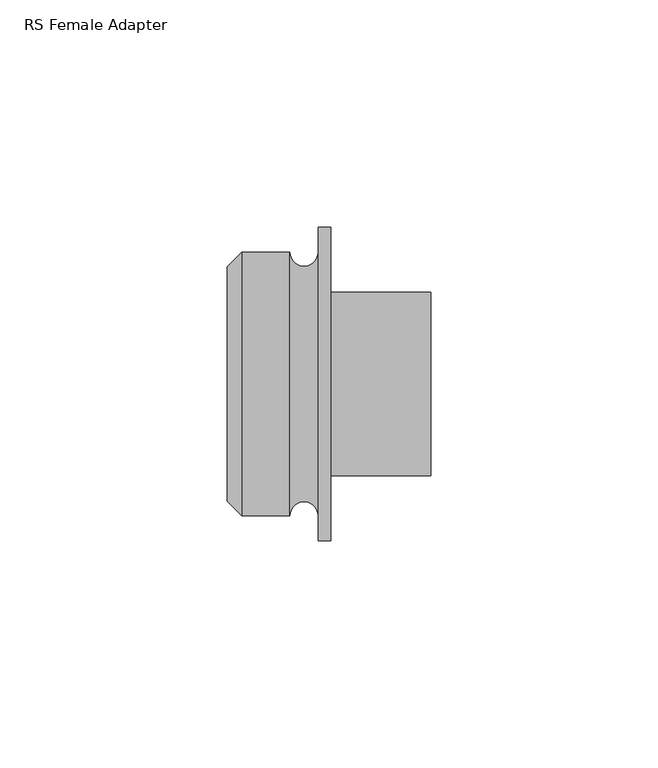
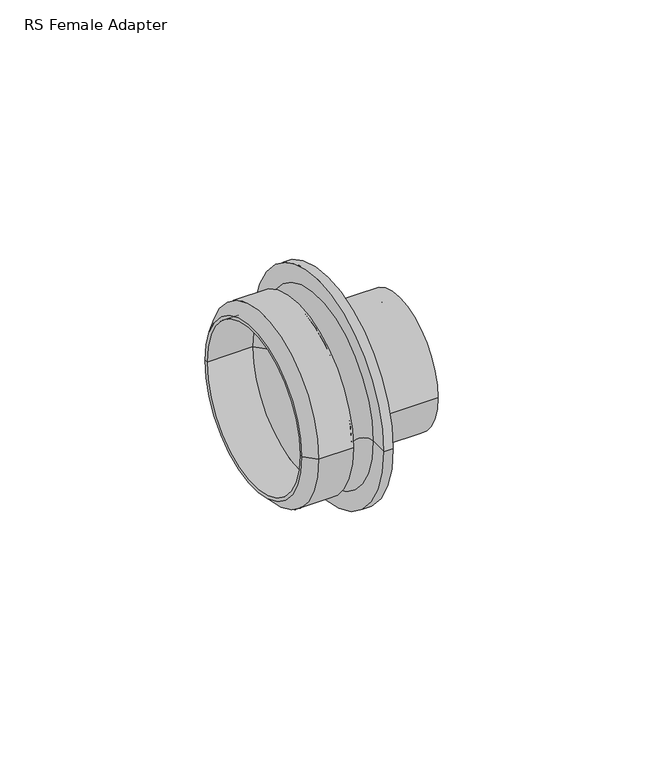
"""IFC4 building model written with IfcOpenShell, lengths in millimetres: pipe fitting geometry, RS Female Adapter : Superpipe RS2 FT Adapter 1”."""

from ifc_helpers import new_model, si_unit, point, frame, origin, place, context, project, spatial, polyline, circle_curve, ellipse_curve, trimmed, source, transform, mapped, element, save
from ifc_brep_helpers import plane_surface, cylinder_surface, revolved_surface, advanced_brep


def rs_female_adapter_be3e60a6(model_context):
    return source(origin(), model_context, "Body", "AdvancedBrep", [
        advanced_brep(
        [(20.0, -34.5, 0.0), (20.0, 34.5, 0.0), (22.8, 34.5, 0.0), (22.8, -34.5, 0.0), (20.0, -29.0, 0.0), (20.0, 29.0, 0.0), (22.8, 16.0, 0.0), (22.8, -16.0, 0.0), (0.0, -25.8, 0.0), (0.0, 25.8, 0.0), (3.2, 29.0, 0.0), (3.2, -29.0, 0.0), (0.0, -24.8, 0.0), (0.0, 24.8, 0.0), (13.8, -29.0, 0.0), (13.8, 29.0, 0.0), (14.0, -24.8, 0.0), (14.0, 24.8, 0.0)],
        [
            (0, 1, circle_curve(frame((20.0, 0.0, 0.0), z_axis=(1.0, 0.0, 0.0), x_axis=(0.0, 1.0, 0.0)), 34.5)),
            (1, 2),
            (2, 3, circle_curve(frame((22.8, 0.0, 0.0), z_axis=(-1.0, 0.0, 0.0), x_axis=(0.0, 1.0, 0.0)), 34.5)),
            (3, 0),
            (1, 0, circle_curve(frame((20.0, 0.0, 0.0), z_axis=(1.0, 0.0, 0.0), x_axis=(0.0, 1.0, 0.0)), 34.5)),
            (3, 2, circle_curve(frame((22.8, 0.0, 0.0), z_axis=(-1.0, 0.0, 0.0), x_axis=(0.0, 1.0, 0.0)), 34.5)),
            (0, 4),
            (4, 5, circle_curve(frame((20.0, 0.0, 0.0), z_axis=(1.0, 0.0, 0.0), x_axis=(0.0, 1.0, 0.0)), 29.0)),
            (5, 1),
            (5, 4, circle_curve(frame((20.0, 0.0, 0.0), z_axis=(1.0, 0.0, 0.0), x_axis=(0.0, 1.0, 0.0)), 29.0)),
            (2, 6),
            (6, 7, circle_curve(frame((22.8, 0.0, 0.0), z_axis=(-1.0, 0.0, 0.0), x_axis=(0.0, 1.0, 0.0)), 16.0)),
            (7, 3),
            (7, 6, circle_curve(frame((22.8, 0.0, 0.0), z_axis=(-1.0, 0.0, 0.0), x_axis=(0.0, 1.0, 0.0)), 16.0)),
            (8, 9, circle_curve(frame((0.0, 0.0, 0.0), z_axis=(1.0, 0.0, 0.0), x_axis=(0.0, 1.0, 0.0)), 25.8)),
            (9, 10),
            (10, 11, circle_curve(frame((3.2, 0.0, 0.0), z_axis=(-1.0, 0.0, 0.0), x_axis=(0.0, 1.0, 0.0)), 29.0)),
            (11, 8),
            (9, 8, circle_curve(frame((0.0, 0.0, 0.0), z_axis=(1.0, 0.0, 0.0), x_axis=(0.0, 1.0, 0.0)), 25.8)),
            (11, 10, circle_curve(frame((3.2, 0.0, 0.0), z_axis=(-1.0, 0.0, 0.0), x_axis=(0.0, 1.0, 0.0)), 29.0)),
            (8, 12),
            (12, 13, circle_curve(frame((0.0, 0.0, 0.0), z_axis=(1.0, 0.0, 0.0), x_axis=(0.0, 1.0, 0.0)), 24.8)),
            (13, 9),
            (13, 12, circle_curve(frame((0.0, 0.0, 0.0), z_axis=(1.0, 0.0, 0.0), x_axis=(0.0, 1.0, 0.0)), 24.8)),
            (4, 14, circle_curve(frame((16.9, -29.0, 0.0), z_axis=(0.0, 0.0, 1.0), x_axis=(1.0, 0.0, 0.0)), 3.1)),
            (14, 15, circle_curve(frame((13.8, 0.0, 0.0), z_axis=(1.0, 0.0, 0.0), x_axis=(0.0, 1.0, 0.0)), 29.0)),
            (15, 5, circle_curve(frame((16.9, 29.0, 0.0), z_axis=(0.0, 0.0, 1.0), x_axis=(1.0, 0.0, 0.0)), 3.1)),
            (15, 14, circle_curve(frame((13.8, 0.0, 0.0), z_axis=(1.0, 0.0, 0.0), x_axis=(0.0, 1.0, 0.0)), 29.0)),
            (10, 15),
            (14, 11),
            (12, 16),
            (16, 17, circle_curve(frame((14.0, 0.0, 0.0), z_axis=(1.0, 0.0, 0.0), x_axis=(0.0, 1.0, 0.0)), 24.8)),
            (17, 13),
            (17, 16, circle_curve(frame((14.0, 0.0, 0.0), z_axis=(1.0, 0.0, 0.0), x_axis=(0.0, 1.0, 0.0)), 24.8)),
            (16, 7),
            (6, 17),
        ],
        [
            cylinder_surface(frame((1964.8, 0.0, 0.0), z_axis=(-1.0, 0.0, 0.0), x_axis=(0.0, 1.0, 0.0)), 34.5),
            plane_surface(frame((20.0, 0.0, 0.0), z_axis=(-1.0, 0.0, 0.0), x_axis=(0.0, 1.0, 0.0))),
            plane_surface(frame((22.8, 0.0, 0.0), z_axis=(1.0, 0.0, 0.0), x_axis=(0.0, 1.0, 0.0))),
            revolved_surface(polyline([(3.2, 29.0, 0.0), (0.0, 25.8, 0.0)]), (1964.8, 0.0, 0.0), (-1.0, 0.0, 0.0)),
            plane_surface(frame((0.0, 0.0, 0.0), z_axis=(-1.0, 0.0, 0.0), x_axis=(0.0, 1.0, 0.0))),
            revolved_surface(trimmed(ellipse_curve(frame((16.9, 29.0, 0.0), z_axis=(0.0, 0.0, -1.0), x_axis=(1.0, 0.0, 0.0)), 3.1, 3.1), [point((20.0, 29.0, 0.0))], [point((13.8, 29.0, 0.0))], True, "CARTESIAN"), (1964.8, 0.0, 0.0), (-1.0, 0.0, 0.0)),
            cylinder_surface(frame((1964.8, 0.0, 0.0), z_axis=(-1.0, 0.0, 0.0), x_axis=(0.0, 1.0, 0.0)), 29.0),
            revolved_surface(polyline([(0.0, 24.8, 0.0), (14.0, 24.8, 0.0)]), (1991.0, 0.0, 0.0), (-1.0, 0.0, 0.0)),
            revolved_surface(polyline([(14.0, 24.8, 0.0), (22.8, 16.0, 0.0)]), (1991.0, 0.0, 0.0), (-1.0, 0.0, 0.0)),
        ],
        [
            (0, [[1, 2, 3, 4]]),
            (0, [[-2, 5, -4, 6]]),
            (1, [[-1, 7, 8, 9]]),
            (1, [[-5, -9, 10, -7]]),
            (2, [[-3, 11, 12, 13]]),
            (2, [[-6, -13, 14, -11]]),
            (3, [[15, 16, 17, 18]]),
            (3, [[-16, 19, -18, 20]]),
            (4, [[-15, 21, 22, 23]]),
            (4, [[-19, -23, 24, -21]]),
            (5, [[-8, 25, 26, 27]]),
            (5, [[-10, -27, 28, -25]]),
            (6, [[-17, 29, -26, 30]]),
            (6, [[-20, -30, -28, -29]]),
            (7, [[31, 32, 33, -22]]),
            (7, [[-31, -24, -33, 34]]),
            (8, [[-32, 35, -12, 36]]),
            (8, [[-34, -36, -14, -35]]),
        ],
    ),
        advanced_brep(
        [(44.8, -20.2, 0.0), (44.8, 20.2, 0.0), (44.8, 16.0, 0.0), (44.8, -16.0, 0.0), (22.8, 16.0, 0.0), (22.8, -16.0, 0.0), (22.8, 20.2, 0.0), (22.8, -20.2, 0.0)],
        [
            (0, 1, circle_curve(frame((44.8, 0.0, 0.0), z_axis=(1.0, 0.0, 0.0), x_axis=(0.0, 1.0, 0.0)), 20.2)),
            (1, 2),
            (2, 3, circle_curve(frame((44.8, 0.0, 0.0), z_axis=(-1.0, 0.0, 0.0), x_axis=(0.0, 1.0, 0.0)), 16.0)),
            (3, 0),
            (2, 4),
            (4, 5, circle_curve(frame((22.8, 0.0, 0.0), z_axis=(-1.0, 0.0, 0.0), x_axis=(0.0, 1.0, 0.0)), 16.0)),
            (5, 3),
            (4, 6),
            (6, 7, circle_curve(frame((22.8, 0.0, 0.0), z_axis=(-1.0, 0.0, 0.0), x_axis=(0.0, 1.0, 0.0)), 20.2)),
            (7, 5),
            (6, 1),
            (0, 7),
            (6, 7, circle_curve(frame((22.8, 0.0, 0.0), z_axis=(1.0, 0.0, 0.0), x_axis=(0.0, 1.0, 0.0)), 20.2)),
            (0, 1, circle_curve(frame((44.8, 0.0, 0.0), z_axis=(-1.0, 0.0, 0.0), x_axis=(0.0, 1.0, 0.0)), 20.2)),
            (4, 5, circle_curve(frame((22.8, 0.0, 0.0), z_axis=(1.0, 0.0, 0.0), x_axis=(0.0, 1.0, 0.0)), 16.0)),
            (2, 3, circle_curve(frame((44.8, 0.0, 0.0), z_axis=(1.0, 0.0, 0.0), x_axis=(0.0, 1.0, 0.0)), 16.0)),
        ],
        [
            plane_surface(frame((44.8, 0.0, 0.0), z_axis=(1.0, 0.0, 0.0), x_axis=(0.0, 1.0, 0.0))),
            revolved_surface(polyline([(22.799999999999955, 16.0, 0.0), (44.799999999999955, 16.0, 0.0)]), (2000.0, 0.0, 0.0), (-1.0, 0.0, 0.0)),
            plane_surface(frame((22.8, 0.0, 0.0), z_axis=(-1.0, 0.0, 0.0), x_axis=(0.0, 1.0, 0.0))),
            cylinder_surface(frame((2000.0, 0.0, 0.0), z_axis=(-1.0, 0.0, 0.0), x_axis=(0.0, 1.0, 0.0)), 20.2),
        ],
        [
            (0, [[1, 2, 3, 4]]),
            (1, [[-3, 5, 6, 7]]),
            (2, [[-6, 8, 9, 10]]),
            (3, [[-9, 11, -1, 12]]),
            (3, [[13, -12, 14, -11]]),
            (2, [[15, -10, -13, -8]]),
            (1, [[16, -7, -15, -5]]),
            (0, [[-14, -4, -16, -2]]),
        ],
    ),
    ])


if __name__ == "__main__":
    model = new_model("IFC4")
    model_context = context("Model", 3, world=origin())
    ifc_project = project(units=[si_unit("LENGTHUNIT", "METRE", prefix="MILLI")], contexts=[model_context])
    site = spatial("IfcSite", under=ifc_project)
    building = spatial("IfcBuilding", under=site)
    placement = place(None, origin())
    rs_female_adapter_shape = rs_female_adapter_be3e60a6(model_context)
    element("IfcPipeFitting", 1, ObjectType="RS Female Adapter : Superpipe RS2 FT Adapter 1”", at=placement, inside=building, context=model_context, shape_type="MappedRepresentation", body=[
        mapped(rs_female_adapter_shape, transform((0.0, 0.0, 0.0), x_axis=(1.0, 0.0, 0.0), y_axis=(0.0, 1.0, 0.0), z_axis=(0.0, 0.0, 1.0))),
    ])
    save(model, "model.ifc")
